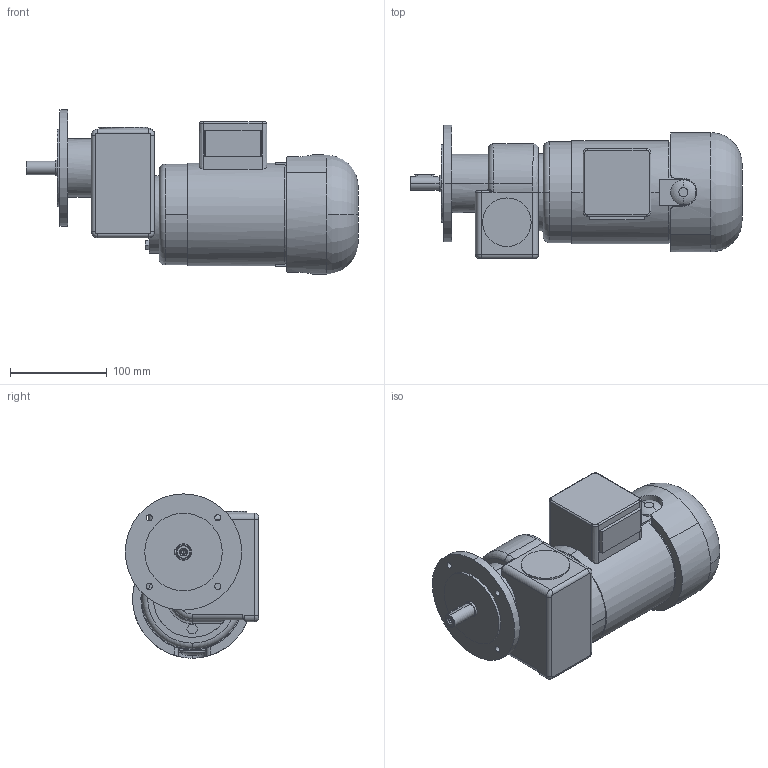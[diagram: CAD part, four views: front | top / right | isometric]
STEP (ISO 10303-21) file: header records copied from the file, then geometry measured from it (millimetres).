
FILE_DESCRIPTION(('OneSpaceDesigner STEP Export'),'2;1');
FILE_NAME('KGOG61-62_GF24_N.stp','2008-08-21T10:15:09',(''),(''),'OneSpace Designer STEP processor (Jan. 2003) for AP214(CD)(Solid Model)','OneSpace Designer 12.01D 09-Jul-2004 (C) CoCreate Software GmbH','');
FILE_SCHEMA(('AUTOMOTIVE_DESIGN_CC2 {1 2 10303 214 -1 1 5 1}'));
Length unit declared in the file: millimetre
Products named in the file (2): KGOG61-62_GF24_N
Assembly tree (1 placements, depth 2):
  KGOG61-62_GF24_N
    KGOG61-62_GF24_N
Bounding box: 342.5 x 137.5 x 169.5 mm (x, y, z)
Volume: 3122297.1 mm3; surface area: 175740.7 mm2
Topology: 1 solids, 1 shells, 185 faces, 463 edges, 292 vertices
Faces by surface type: cylinder 70, plane 67, bspline 19, torus 16, cone 8, extrusion 5
Entity records: 12129 total; most frequent: CARTESIAN_POINT 8160, ORIENTED_EDGE 920, DIRECTION 653, EDGE_CURVE 460, VERTEX_POINT 292, AXIS2_PLACEMENT_3D 219, VECTOR 215, LINE 210
